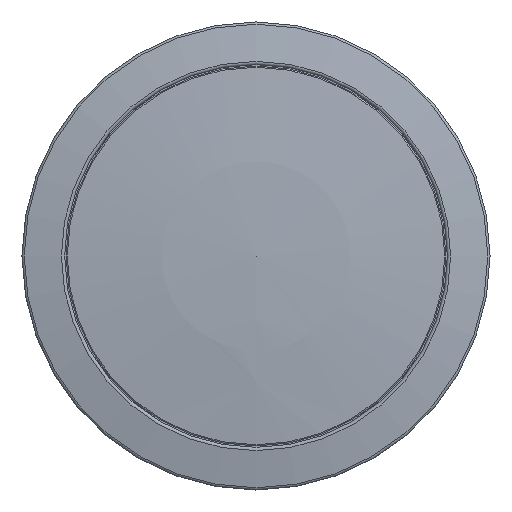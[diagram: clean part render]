
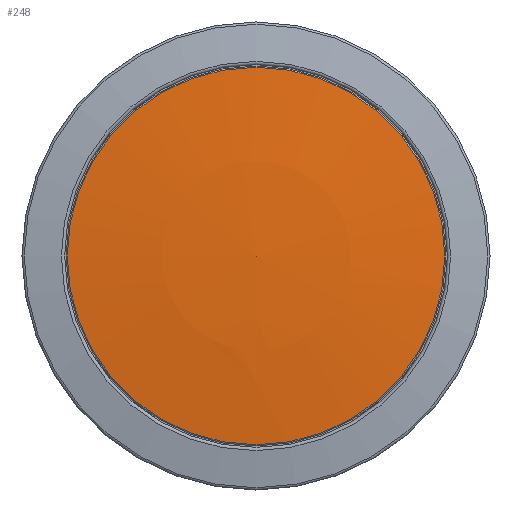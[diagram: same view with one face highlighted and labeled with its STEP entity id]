
A CAD part, left-side view. The second image highlights one B-rep face of the part: STEP entity #248.
In plain terms, the highlighted spherical face has radius 60.28 mm.
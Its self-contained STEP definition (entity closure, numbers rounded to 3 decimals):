
#15=SPHERICAL_SURFACE('',#310,60.28);
#67=FACE_OUTER_BOUND('',#86,.T.);
#86=EDGE_LOOP('',(#226,#227,#228));
#108=CIRCLE('',#309,6.856);
#109=CIRCLE('',#311,60.28);
#128=VERTEX_POINT('',#469);
#129=VERTEX_POINT('',#473);
#161=EDGE_CURVE('',#128,#128,#108,.T.);
#162=EDGE_CURVE('',#128,#129,#109,.T.);
#226=ORIENTED_EDGE('',*,*,#161,.F.);
#227=ORIENTED_EDGE('',*,*,#162,.T.);
#228=ORIENTED_EDGE('',*,*,#162,.F.);
#248=ADVANCED_FACE('',(#67),#15,.T.);
#309=AXIS2_PLACEMENT_3D('',#471,#398,#399);
#310=AXIS2_PLACEMENT_3D('',#472,#400,#401);
#311=AXIS2_PLACEMENT_3D('',#474,#402,#403);
#398=DIRECTION('center_axis',(1.,0.,0.));
#399=DIRECTION('ref_axis',(0.,0.,-1.));
#400=DIRECTION('center_axis',(1.,0.,0.));
#401=DIRECTION('ref_axis',(0.,0.,1.));
#402=DIRECTION('center_axis',(0.,1.,0.));
#403=DIRECTION('ref_axis',(0.,0.,-1.));
#469=CARTESIAN_POINT('',(-14.079,0.,-3.366));
#471=CARTESIAN_POINT('Origin',(-14.079,0.,3.49));
#472=CARTESIAN_POINT('Origin',(45.81,0.,3.49));
#473=CARTESIAN_POINT('',(-14.47,0.,3.49));
#474=CARTESIAN_POINT('Origin',(45.81,0.,3.49));
